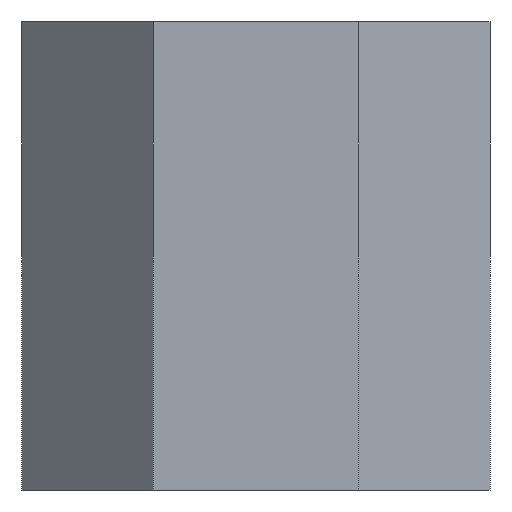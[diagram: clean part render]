
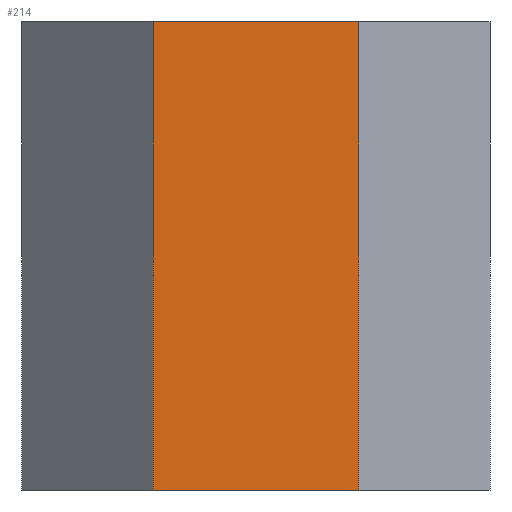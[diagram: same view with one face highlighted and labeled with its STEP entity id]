
A CAD part, front view. The second image highlights one B-rep face of the part: STEP entity #214.
In plain terms, the highlighted planar face has unit normal (0, -1, 0).
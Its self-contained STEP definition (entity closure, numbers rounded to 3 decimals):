
#41=VECTOR('',#310,1.);
#42=VECTOR('',#312,1.);
#43=VECTOR('',#313,1.);
#44=VECTOR('',#314,1.);
#59=LINE('',#264,#41);
#60=LINE('',#266,#42);
#61=LINE('',#268,#43);
#62=LINE('',#270,#44);
#73=PLANE('',#229);
#88=VERTEX_POINT('',#258);
#91=VERTEX_POINT('',#263);
#92=VERTEX_POINT('',#267);
#93=VERTEX_POINT('',#269);
#114=EDGE_CURVE('',#91,#88,#59,.T.);
#115=EDGE_CURVE('',#91,#92,#60,.T.);
#116=EDGE_CURVE('',#93,#92,#61,.T.);
#117=EDGE_CURVE('',#93,#88,#62,.T.);
#142=ORIENTED_EDGE('',*,*,#114,.F.);
#143=ORIENTED_EDGE('',*,*,#115,.T.);
#144=ORIENTED_EDGE('',*,*,#116,.F.);
#145=ORIENTED_EDGE('',*,*,#117,.T.);
#182=EDGE_LOOP('',(#142,#143,#144,#145));
#199=FACE_BOUND('',#182,.T.);
#214=ADVANCED_FACE('',(#199),#73,.T.);
#229=AXIS2_PLACEMENT_3D('',#265,#311,$);
#258=CARTESIAN_POINT('',(-2.2,-5.,10.));
#263=CARTESIAN_POINT('',(-2.2,-5.,0.));
#264=CARTESIAN_POINT('',(-2.2,-5.,0.));
#265=CARTESIAN_POINT('',(0.,-5.,0.));
#266=CARTESIAN_POINT('',(-5.,-5.,0.));
#267=CARTESIAN_POINT('',(2.2,-5.,0.));
#268=CARTESIAN_POINT('',(2.2,-5.,0.));
#269=CARTESIAN_POINT('',(2.2,-5.,10.));
#270=CARTESIAN_POINT('',(-5.,-5.,10.));
#310=DIRECTION('',(0.,0.,1.));
#311=DIRECTION('',(0.,-1.,0.));
#312=DIRECTION('',(1.,0.,0.));
#313=DIRECTION('',(0.,0.,-1.));
#314=DIRECTION('',(-1.,0.,0.));
